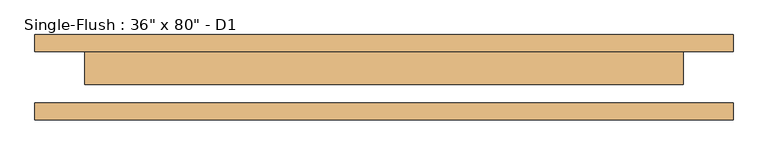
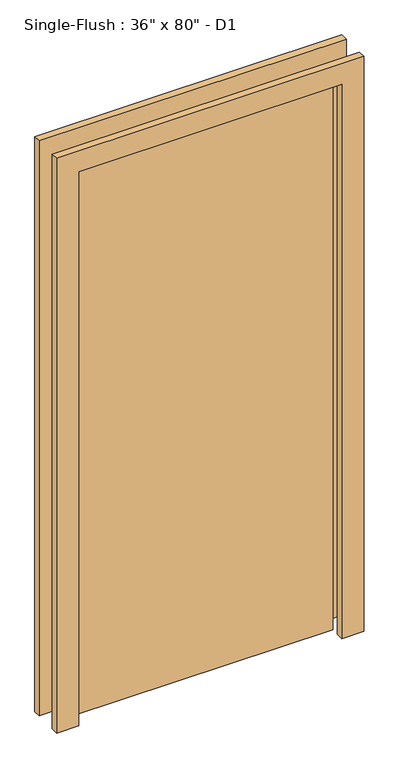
"""IFC4 building model written with IfcOpenShell, lengths in millimetres: door geometry."""

from ifc_helpers import new_model, si_unit, frame, origin, origin_with_axes, place, context, project, spatial, polyline, outline, extrude, source, transform, mapped, element, save


def door_c0366a91(model_context):
    return source(origin(), model_context, "Body", "SweptSolid", [
        extrude(outline(polyline([(2108.2, -533.4), (0.0, -533.4), (0.0, -457.2), (2032.0, -457.2), (2032.0, 457.2), (0.0, 457.2), (0.0, 533.4), (2108.2, 533.4), (2108.2, -533.4)])), frame((0.0, 39.6875, 0.0), z_axis=(0.0, 1.0, 0.0), x_axis=(0.0, 0.0, 1.0)), (0.0, 0.0, 1.0), 25.4),
        extrude(outline(polyline([(2108.2, 533.4), (2108.2, -533.4), (0.0, -533.4), (0.0, -457.2), (2032.0, -457.2), (2032.0, 457.2), (0.0, 457.2), (0.0, 533.4), (2108.2, 533.4)])), frame((0.0, -65.0875, 0.0), z_axis=(0.0, 1.0, 0.0), x_axis=(0.0, 0.0, 1.0)), (0.0, 0.0, 1.0), 25.4),
        extrude(outline(polyline([(457.2, -11.1125), (-457.2, -11.1125), (-457.2, 39.6875), (457.2, 39.6875), (457.2, -11.1125)])), origin_with_axes(), (0.0, 0.0, 1.0), 2032.0),
    ])


if __name__ == "__main__":
    model = new_model("IFC4")
    model_context = context("Model", 3, world=origin())
    ifc_project = project(units=[si_unit("LENGTHUNIT", "METRE", prefix="MILLI")], contexts=[model_context])
    site = spatial("IfcSite", under=ifc_project)
    building = spatial("IfcBuilding", under=site)
    placement = place(None, origin())
    door_shape = door_c0366a91(model_context)
    element("IfcDoor", 1, ObjectType="Single-Flush : 36\" x 80\" - D1", at=placement, inside=building, context=model_context, shape_type="MappedRepresentation", body=[
        mapped(door_shape, transform((0.0, 0.0, 0.0), x_axis=(1.0, 0.0, 0.0), y_axis=(0.0, 1.0, 0.0), z_axis=(0.0, 0.0, 1.0))),
    ])
    save(model, "model.ifc")
